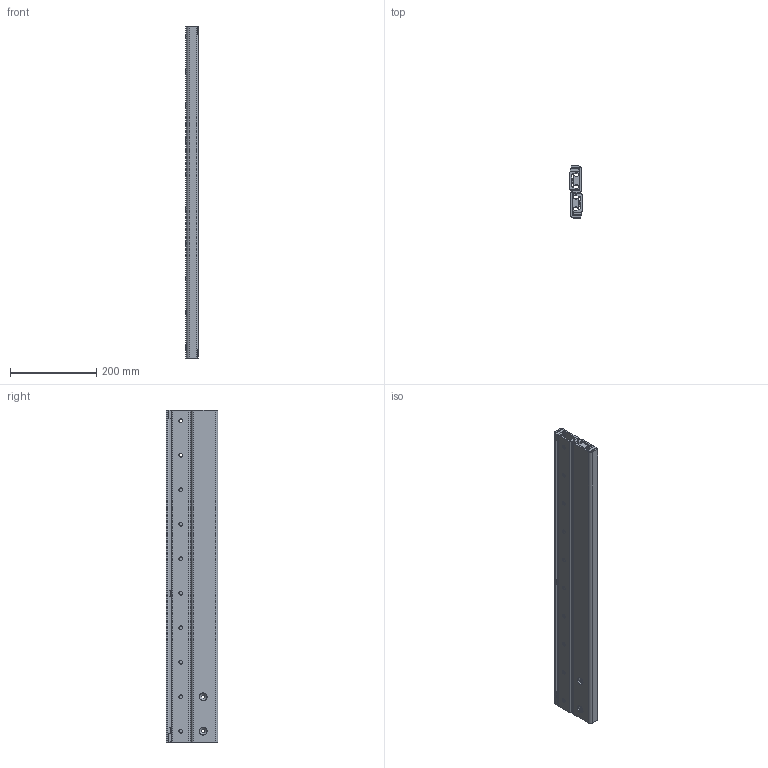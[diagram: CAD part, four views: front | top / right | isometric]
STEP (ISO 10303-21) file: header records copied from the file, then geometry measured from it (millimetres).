
FILE_DESCRIPTION(('STEP AP214'),'1');
FILE_NAME('rail_dss43-770_00.stp','2017-04-17T04:00:47',('TraceParts'),('TraceParts S.A.'),'Spatial InterOp 3D',' ',' ');
FILE_SCHEMA(('automotive_design'));
Length unit declared in the file: millimetre
Products named in the file (3): rail_dss43-770_00_1; rail_dss43-770_00_2; rail_dss43-770_00_3
Bounding box: 28 x 120 x 770 mm (x, y, z)
Volume: 1392149.2 mm3; surface area: 555656.5 mm2
Topology: 3 solids, 3 shells, 278 faces, 746 edges, 484 vertices
Faces by surface type: plane 138, cylinder 100, cone 40
Entity records: 8847 total; most frequent: DIRECTION 1564, CARTESIAN_POINT 1511, ORIENTED_EDGE 1492, EDGE_CURVE 746, AXIS2_PLACEMENT_3D 537, LINE 490, VECTOR 490, VERTEX_POINT 484
